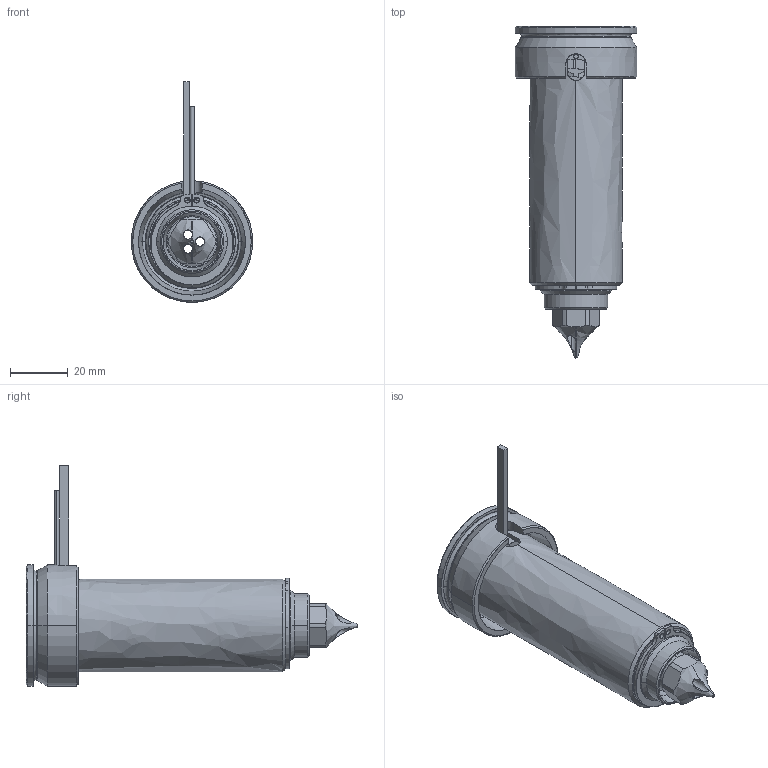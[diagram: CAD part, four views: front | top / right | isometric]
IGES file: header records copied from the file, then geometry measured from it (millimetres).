
Start section: SolidWorks IGES file using analytic representation for surfaces
Global section: file name: C:\Users\luca.EMPAD\Desktop\TEM\UGDL3613-S-A-1 [Øf=1.0 ØC=09].IGS; native system: SolidWorks 2012; preprocessor: SolidWorks 2012; author: luca; date: 120330.155657; units: millimetre
Bounding box: 42 x 114.8 x 76.3 mm (x, y, z)
Surface area: 36905.6 mm2 (no closed solid volume)
Topology: 0 solids, 0 shells, 128 faces, 2258 edges, 2258 vertices
Faces by surface type: revolution 79, bspline 49
